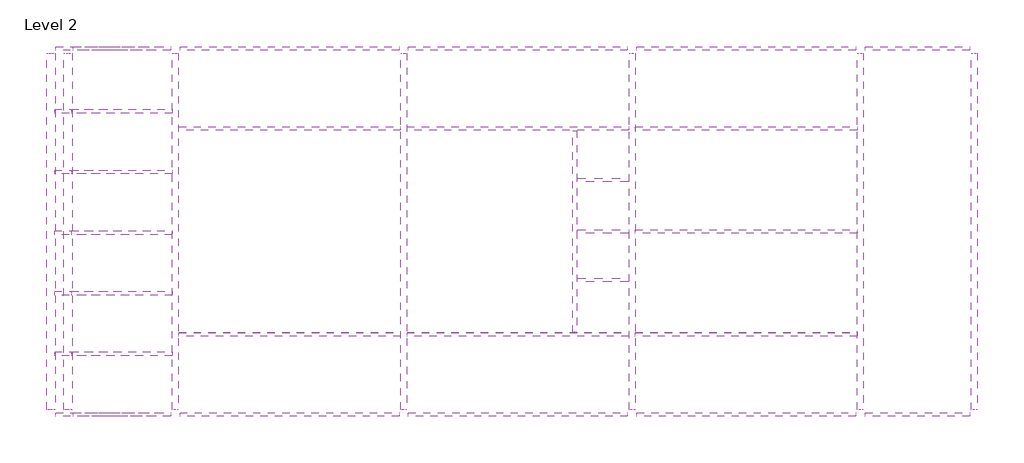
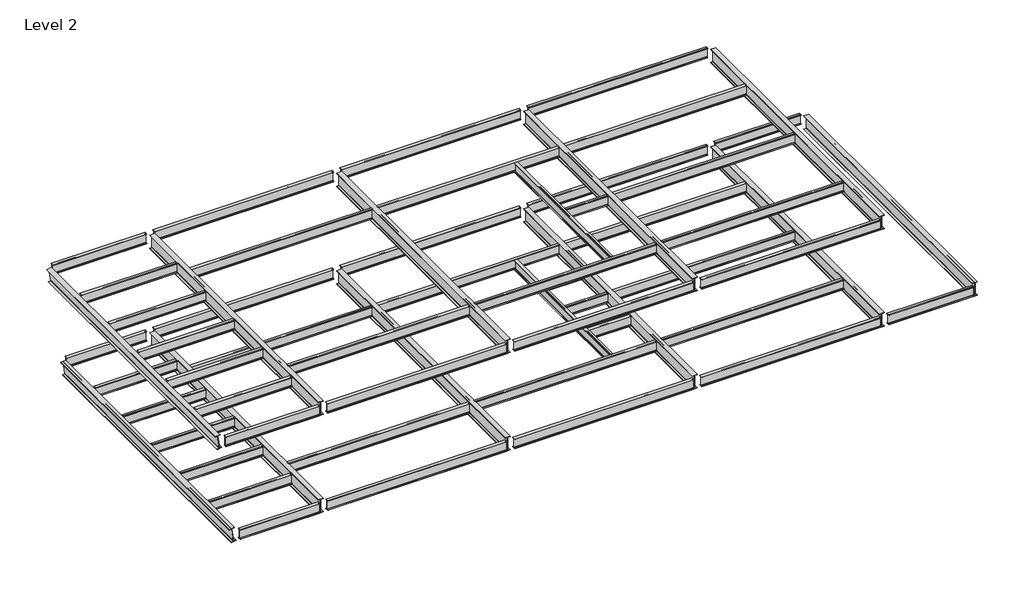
# One storey: 59 beams.
"""IFC4 building model written with IfcOpenShell, lengths in millimetres."""

from ifc_helpers import new_model, si_unit, origin, place, context, project, spatial, transform, mapped, element, save
from components import w_shapes_w21x57_76d5891c, w_shapes_w21x57_2c3ae1b6, w_shapes_w21x57_840b16e6, w_shapes_w21x57_eb867012, w_shapes_w21x57_61476ac7, w_shapes_w21x57_55c37454, w_shapes_w21x57_7ce624f6, w_shapes_w21x57_5e1e39fb, w_shapes_w21x57_8b329244, w_shapes_w21x57_205b0bd9, w_shapes_w21x57_e7449647, w_shapes_w21x57_ac06ad1a, w_shapes_w21x57_a1cec43f, w_shapes_w30x124_36e47cc1, w_shapes_w30x124_813c827b

model = new_model("IFC4")

# Units and contexts
model_context = context("Model", 3, world=origin())
ifc_project = project(units=[si_unit("LENGTHUNIT", "METRE", prefix="MILLI")], contexts=[model_context])

# Site, building, storey
site = spatial("IfcSite", under=ifc_project)
building = spatial("IfcBuilding", under=site)
storey = spatial("IfcBuildingStorey", under=building, Name="Level 2", Elevation=3000.0)

# Beams
placement = place(None, origin())
w_shapes_w21x57_shape = w_shapes_w21x57_76d5891c(model_context)
element("IfcBeam", 1, ObjectType="W Shapes : W21X57", at=placement, inside=storey, context=model_context, shape_type="MappedRepresentation", body=[
    mapped(w_shapes_w21x57_shape, transform((4197.5, -9335.0, 5232.03), x_axis=(1.0, 0.0, 0.0), y_axis=(0.0, 1.0, 0.0), z_axis=(0.0, 0.0, 1.0))),
])
element("IfcBeam", 2, ObjectType="W Shapes : W21X57", at=placement, inside=storey, context=model_context, shape_type="MappedRepresentation", body=[
    mapped(w_shapes_w21x57_shape, transform((4197.5, -6685.0, 5232.03), x_axis=(1.0, 0.0, 0.0), y_axis=(0.0, 1.0, 0.0), z_axis=(0.0, 0.0, 1.0))),
])
element("IfcBeam", 3, ObjectType="W Shapes : W21X57", at=placement, inside=storey, context=model_context, shape_type="MappedRepresentation", body=[
    mapped(w_shapes_w21x57_shape, transform((4197.5, -4035.0, 5232.03), x_axis=(1.0, 0.0, 0.0), y_axis=(0.0, 1.0, 0.0), z_axis=(0.0, 0.0, 1.0))),
])
element("IfcBeam", 4, ObjectType="W Shapes : W21X57", at=placement, inside=storey, context=model_context, shape_type="MappedRepresentation", body=[
    mapped(w_shapes_w21x57_shape, transform((4197.5, -1385.0, 5232.03), x_axis=(1.0, 0.0, 0.0), y_axis=(0.0, 1.0, 0.0), z_axis=(0.0, 0.0, 1.0))),
])
element("IfcBeam", 5, ObjectType="W Shapes : W21X57", at=placement, inside=storey, context=model_context, shape_type="MappedRepresentation", body=[
    mapped(w_shapes_w21x57_shape, transform((4197.5, -11985.0, 5232.03), x_axis=(1.0, 0.0, 0.0), y_axis=(0.0, 1.0, 0.0), z_axis=(0.0, 0.0, 1.0))),
])
w_shapes_w21x57_2_shape = w_shapes_w21x57_2c3ae1b6(model_context)
element("IfcBeam", 6, ObjectType="W Shapes : W21X57", at=placement, inside=storey, context=model_context, shape_type="MappedRepresentation", body=[
    mapped(w_shapes_w21x57_2_shape, transform((24099.4, -6572.5, 10732.03), x_axis=(0.0, -1.0, 0.0), y_axis=(1.0, 0.0, 0.0), z_axis=(0.0, 0.0, 1.0))),
])
element("IfcBeam", 7, ObjectType="W Shapes : W21X57", at=placement, inside=storey, context=model_context, shape_type="MappedRepresentation", body=[
    mapped(w_shapes_w21x57_2_shape, transform((24099.4, -6572.5, 5232.03), x_axis=(0.0, -1.0, 0.0), y_axis=(1.0, 0.0, 0.0), z_axis=(0.0, 0.0, 1.0))),
])
w_shapes_w21x57_3_shape = w_shapes_w21x57_840b16e6(model_context)
element("IfcBeam", 8, ObjectType="W Shapes : W21X57", at=placement, inside=storey, context=model_context, shape_type="MappedRepresentation", body=[
    mapped(w_shapes_w21x57_3_shape, transform((25349.4, -6635.0, 10732.03), x_axis=(1.0, 0.0, 0.0), y_axis=(0.0, 1.0, 0.0), z_axis=(0.0, 0.0, 1.0))),
])
element("IfcBeam", 9, ObjectType="W Shapes : W21X57", at=placement, inside=storey, context=model_context, shape_type="MappedRepresentation", body=[
    mapped(w_shapes_w21x57_3_shape, transform((25349.4, -6635.0, 5232.03), x_axis=(1.0, 0.0, 0.0), y_axis=(0.0, 1.0, 0.0), z_axis=(0.0, 0.0, 1.0))),
])
w_shapes_w21x57_4_shape = w_shapes_w21x57_eb867012(model_context)
element("IfcBeam", 10, ObjectType="W Shapes : W21X57", at=placement, inside=storey, context=model_context, shape_type="MappedRepresentation", body=[
    mapped(w_shapes_w21x57_4_shape, transform((25286.9, -4385.0, 5232.03), x_axis=(1.0, 0.0, 0.0), y_axis=(0.0, 1.0, 0.0), z_axis=(0.0, 0.0, 1.0))),
])
element("IfcBeam", 11, ObjectType="W Shapes : W21X57", at=placement, inside=storey, context=model_context, shape_type="MappedRepresentation", body=[
    mapped(w_shapes_w21x57_4_shape, transform((25286.9, -8760.0, 5232.03), x_axis=(1.0, 0.0, 0.0), y_axis=(0.0, 1.0, 0.0), z_axis=(0.0, 0.0, 1.0))),
])
w_shapes_w21x57_5_shape = w_shapes_w21x57_61476ac7(model_context)
element("IfcBeam", 12, ObjectType="W Shapes : W21X57", at=placement, inside=storey, context=model_context, shape_type="MappedRepresentation", body=[
    mapped(w_shapes_w21x57_5_shape, transform((3822.5, -11985.0, 10732.03), x_axis=(1.0, 0.0, 0.0), y_axis=(0.0, 1.0, 0.0), z_axis=(0.0, 0.0, 1.0))),
])
element("IfcBeam", 13, ObjectType="W Shapes : W21X57", at=placement, inside=storey, context=model_context, shape_type="MappedRepresentation", body=[
    mapped(w_shapes_w21x57_5_shape, transform((3822.5, -9335.0, 10732.03), x_axis=(1.0, 0.0, 0.0), y_axis=(0.0, 1.0, 0.0), z_axis=(0.0, 0.0, 1.0))),
])
element("IfcBeam", 14, ObjectType="W Shapes : W21X57", at=placement, inside=storey, context=model_context, shape_type="MappedRepresentation", body=[
    mapped(w_shapes_w21x57_5_shape, transform((3822.5, -6685.0, 10732.03), x_axis=(1.0, 0.0, 0.0), y_axis=(0.0, 1.0, 0.0), z_axis=(0.0, 0.0, 1.0))),
])
element("IfcBeam", 15, ObjectType="W Shapes : W21X57", at=placement, inside=storey, context=model_context, shape_type="MappedRepresentation", body=[
    mapped(w_shapes_w21x57_5_shape, transform((3822.5, -4035.0, 10732.03), x_axis=(1.0, 0.0, 0.0), y_axis=(0.0, 1.0, 0.0), z_axis=(0.0, 0.0, 1.0))),
])
element("IfcBeam", 16, ObjectType="W Shapes : W21X57", at=placement, inside=storey, context=model_context, shape_type="MappedRepresentation", body=[
    mapped(w_shapes_w21x57_5_shape, transform((3822.5, -1385.0, 10732.03), x_axis=(1.0, 0.0, 0.0), y_axis=(0.0, 1.0, 0.0), z_axis=(0.0, 0.0, 1.0))),
])
w_shapes_w21x57_6_shape = w_shapes_w21x57_55c37454(model_context)
element("IfcBeam", 17, ObjectType="W Shapes : W21X57", at=placement, inside=storey, context=model_context, shape_type="MappedRepresentation", body=[
    mapped(w_shapes_w21x57_6_shape, transform((31590.5, -11135.0, 5232.03), x_axis=(-1.0, 0.0, 0.0), y_axis=(0.0, -1.0, 0.0), z_axis=(0.0, 0.0, 1.0))),
])
element("IfcBeam", 18, ObjectType="W Shapes : W21X57", at=placement, inside=storey, context=model_context, shape_type="MappedRepresentation", body=[
    mapped(w_shapes_w21x57_6_shape, transform((21608.3, -11135.0, 5232.03), x_axis=(-1.0, 0.0, 0.0), y_axis=(0.0, -1.0, 0.0), z_axis=(0.0, 0.0, 1.0))),
])
element("IfcBeam", 19, ObjectType="W Shapes : W21X57", at=placement, inside=storey, context=model_context, shape_type="MappedRepresentation", body=[
    mapped(w_shapes_w21x57_6_shape, transform((31590.5, -2135.0, 5232.03), x_axis=(-1.0, 0.0, 0.0), y_axis=(0.0, -1.0, 0.0), z_axis=(0.0, 0.0, 1.0))),
])
element("IfcBeam", 20, ObjectType="W Shapes : W21X57", at=placement, inside=storey, context=model_context, shape_type="MappedRepresentation", body=[
    mapped(w_shapes_w21x57_6_shape, transform((21608.3, -2135.0, 5232.03), x_axis=(-1.0, 0.0, 0.0), y_axis=(0.0, -1.0, 0.0), z_axis=(0.0, 0.0, 1.0))),
])
element("IfcBeam", 21, ObjectType="W Shapes : W21X57", at=placement, inside=storey, context=model_context, shape_type="MappedRepresentation", body=[
    mapped(w_shapes_w21x57_6_shape, transform((31590.5, -2135.0, 10732.03), x_axis=(-1.0, 0.0, 0.0), y_axis=(0.0, -1.0, 0.0), z_axis=(0.0, 0.0, 1.0))),
])
element("IfcBeam", 22, ObjectType="W Shapes : W21X57", at=placement, inside=storey, context=model_context, shape_type="MappedRepresentation", body=[
    mapped(w_shapes_w21x57_6_shape, transform((21608.3, -2135.0, 10732.03), x_axis=(-1.0, 0.0, 0.0), y_axis=(0.0, -1.0, 0.0), z_axis=(0.0, 0.0, 1.0))),
])
element("IfcBeam", 23, ObjectType="W Shapes : W21X57", at=placement, inside=storey, context=model_context, shape_type="MappedRepresentation", body=[
    mapped(w_shapes_w21x57_6_shape, transform((31590.5, -11135.0, 10732.03), x_axis=(-1.0, 0.0, 0.0), y_axis=(0.0, -1.0, 0.0), z_axis=(0.0, 0.0, 1.0))),
])
element("IfcBeam", 24, ObjectType="W Shapes : W21X57", at=placement, inside=storey, context=model_context, shape_type="MappedRepresentation", body=[
    mapped(w_shapes_w21x57_6_shape, transform((21608.3, -11135.0, 10732.03), x_axis=(-1.0, 0.0, 0.0), y_axis=(0.0, -1.0, 0.0), z_axis=(0.0, 0.0, 1.0))),
])
w_shapes_w21x57_7_shape = w_shapes_w21x57_7ce624f6(model_context)
element("IfcBeam", 25, ObjectType="W Shapes : W21X57", at=placement, inside=storey, context=model_context, shape_type="MappedRepresentation", body=[
    mapped(w_shapes_w21x57_7_shape, transform((11688.6, -11135.0, 5232.03), x_axis=(-1.0, 0.0, 0.0), y_axis=(0.0, -1.0, 0.0), z_axis=(0.0, 0.0, 1.0))),
])
element("IfcBeam", 26, ObjectType="W Shapes : W21X57", at=placement, inside=storey, context=model_context, shape_type="MappedRepresentation", body=[
    mapped(w_shapes_w21x57_7_shape, transform((11688.6, -2135.0, 5232.03), x_axis=(-1.0, 0.0, 0.0), y_axis=(0.0, -1.0, 0.0), z_axis=(0.0, 0.0, 1.0))),
])
element("IfcBeam", 27, ObjectType="W Shapes : W21X57", at=placement, inside=storey, context=model_context, shape_type="MappedRepresentation", body=[
    mapped(w_shapes_w21x57_7_shape, transform((11688.6, -2135.0, 10732.03), x_axis=(-1.0, 0.0, 0.0), y_axis=(0.0, -1.0, 0.0), z_axis=(0.0, 0.0, 1.0))),
])
element("IfcBeam", 28, ObjectType="W Shapes : W21X57", at=placement, inside=storey, context=model_context, shape_type="MappedRepresentation", body=[
    mapped(w_shapes_w21x57_7_shape, transform((11688.6, -11135.0, 10732.03), x_axis=(-1.0, 0.0, 0.0), y_axis=(0.0, -1.0, 0.0), z_axis=(0.0, 0.0, 1.0))),
])
element("IfcBeam", 29, ObjectType="W Shapes : W21X57", at=placement, inside=storey, context=model_context, shape_type="MappedRepresentation", body=[
    mapped(w_shapes_w21x57_7_shape, transform((31528.0, -6635.0, 10732.03), x_axis=(1.0, 0.0, 0.0), y_axis=(0.0, 1.0, 0.0), z_axis=(0.0, 0.0, 1.0))),
])
element("IfcBeam", 30, ObjectType="W Shapes : W21X57", at=placement, inside=storey, context=model_context, shape_type="MappedRepresentation", body=[
    mapped(w_shapes_w21x57_7_shape, transform((31528.0, -6635.0, 5232.03), x_axis=(1.0, 0.0, 0.0), y_axis=(0.0, 1.0, 0.0), z_axis=(0.0, 0.0, 1.0))),
])
w_shapes_w21x57_8_shape = w_shapes_w21x57_5e1e39fb(model_context)
element("IfcBeam", 31, ObjectType="W Shapes : W21X57", at=placement, inside=storey, context=model_context, shape_type="MappedRepresentation", body=[
    mapped(w_shapes_w21x57_8_shape, transform((39072.7, -14635.0, 5232.03), x_axis=(-1.0, 0.0, 0.0), y_axis=(0.0, -1.0, 0.0), z_axis=(0.0, 0.0, 1.0))),
])
element("IfcBeam", 32, ObjectType="W Shapes : W21X57", at=placement, inside=storey, context=model_context, shape_type="MappedRepresentation", body=[
    mapped(w_shapes_w21x57_8_shape, transform((39072.7, 1365.0, 5232.03), x_axis=(1.0, 0.0, 0.0), y_axis=(0.0, 1.0, 0.0), z_axis=(0.0, 0.0, 1.0))),
])
w_shapes_w21x57_9_shape = w_shapes_w21x57_8b329244(model_context)
element("IfcBeam", 33, ObjectType="W Shapes : W21X57", at=placement, inside=storey, context=model_context, shape_type="MappedRepresentation", body=[
    mapped(w_shapes_w21x57_9_shape, transform((21608.3, -14635.0, 5232.03), x_axis=(-1.0, 0.0, 0.0), y_axis=(0.0, -1.0, 0.0), z_axis=(0.0, 0.0, 1.0))),
])
element("IfcBeam", 34, ObjectType="W Shapes : W21X57", at=placement, inside=storey, context=model_context, shape_type="MappedRepresentation", body=[
    mapped(w_shapes_w21x57_9_shape, transform((11626.1, -14635.0, 5232.03), x_axis=(-1.0, 0.0, 0.0), y_axis=(0.0, -1.0, 0.0), z_axis=(0.0, 0.0, 1.0))),
])
element("IfcBeam", 35, ObjectType="W Shapes : W21X57", at=placement, inside=storey, context=model_context, shape_type="MappedRepresentation", body=[
    mapped(w_shapes_w21x57_9_shape, transform((11626.1, 1365.0, 5232.03), x_axis=(1.0, 0.0, 0.0), y_axis=(0.0, 1.0, 0.0), z_axis=(0.0, 0.0, 1.0))),
])
element("IfcBeam", 36, ObjectType="W Shapes : W21X57", at=placement, inside=storey, context=model_context, shape_type="MappedRepresentation", body=[
    mapped(w_shapes_w21x57_9_shape, transform((21608.3, 1365.0, 5232.03), x_axis=(1.0, 0.0, 0.0), y_axis=(0.0, 1.0, 0.0), z_axis=(0.0, 0.0, 1.0))),
])
element("IfcBeam", 37, ObjectType="W Shapes : W21X57", at=placement, inside=storey, context=model_context, shape_type="MappedRepresentation", body=[
    mapped(w_shapes_w21x57_9_shape, transform((31590.5, 1365.0, 5232.03), x_axis=(1.0, 0.0, 0.0), y_axis=(0.0, 1.0, 0.0), z_axis=(0.0, 0.0, 1.0))),
])
element("IfcBeam", 38, ObjectType="W Shapes : W21X57", at=placement, inside=storey, context=model_context, shape_type="MappedRepresentation", body=[
    mapped(w_shapes_w21x57_9_shape, transform((31590.5, -14635.0, 10732.03), x_axis=(-1.0, 0.0, 0.0), y_axis=(0.0, -1.0, 0.0), z_axis=(0.0, 0.0, 1.0))),
])
element("IfcBeam", 39, ObjectType="W Shapes : W21X57", at=placement, inside=storey, context=model_context, shape_type="MappedRepresentation", body=[
    mapped(w_shapes_w21x57_9_shape, transform((21608.3, -14635.0, 10732.03), x_axis=(-1.0, 0.0, 0.0), y_axis=(0.0, -1.0, 0.0), z_axis=(0.0, 0.0, 1.0))),
])
element("IfcBeam", 40, ObjectType="W Shapes : W21X57", at=placement, inside=storey, context=model_context, shape_type="MappedRepresentation", body=[
    mapped(w_shapes_w21x57_9_shape, transform((11626.1, -14635.0, 10732.03), x_axis=(-1.0, 0.0, 0.0), y_axis=(0.0, -1.0, 0.0), z_axis=(0.0, 0.0, 1.0))),
])
element("IfcBeam", 41, ObjectType="W Shapes : W21X57", at=placement, inside=storey, context=model_context, shape_type="MappedRepresentation", body=[
    mapped(w_shapes_w21x57_9_shape, transform((11626.1, 1365.0, 10732.03), x_axis=(1.0, 0.0, 0.0), y_axis=(0.0, 1.0, 0.0), z_axis=(0.0, 0.0, 1.0))),
])
element("IfcBeam", 42, ObjectType="W Shapes : W21X57", at=placement, inside=storey, context=model_context, shape_type="MappedRepresentation", body=[
    mapped(w_shapes_w21x57_9_shape, transform((21608.3, 1365.0, 10732.03), x_axis=(1.0, 0.0, 0.0), y_axis=(0.0, 1.0, 0.0), z_axis=(0.0, 0.0, 1.0))),
])
element("IfcBeam", 43, ObjectType="W Shapes : W21X57", at=placement, inside=storey, context=model_context, shape_type="MappedRepresentation", body=[
    mapped(w_shapes_w21x57_9_shape, transform((31590.5, 1365.0, 10732.03), x_axis=(1.0, 0.0, 0.0), y_axis=(0.0, 1.0, 0.0), z_axis=(0.0, 0.0, 1.0))),
])
element("IfcBeam", 44, ObjectType="W Shapes : W21X57", at=placement, inside=storey, context=model_context, shape_type="MappedRepresentation", body=[
    mapped(w_shapes_w21x57_9_shape, transform((31590.5, -14635.0, 5232.03), x_axis=(-1.0, 0.0, 0.0), y_axis=(0.0, -1.0, 0.0), z_axis=(0.0, 0.0, 1.0))),
])
w_shapes_w21x57_10_shape = w_shapes_w21x57_205b0bd9(model_context)
element("IfcBeam", 45, ObjectType="W Shapes : W21X57", at=placement, inside=storey, context=model_context, shape_type="MappedRepresentation", body=[
    mapped(w_shapes_w21x57_10_shape, transform((4260.0, -14635.0, 5232.03), x_axis=(-1.0, 0.0, 0.0), y_axis=(0.0, -1.0, 0.0), z_axis=(0.0, 0.0, 1.0))),
])
w_shapes_w21x57_11_shape = w_shapes_w21x57_e7449647(model_context)
element("IfcBeam", 46, ObjectType="W Shapes : W21X57", at=placement, inside=storey, context=model_context, shape_type="MappedRepresentation", body=[
    mapped(w_shapes_w21x57_11_shape, transform((4260.0, 1365.0, 5232.03), x_axis=(1.0, 0.0, 0.0), y_axis=(0.0, 1.0, 0.0), z_axis=(0.0, 0.0, 1.0))),
])
w_shapes_w21x57_12_shape = w_shapes_w21x57_ac06ad1a(model_context)
element("IfcBeam", 47, ObjectType="W Shapes : W21X57", at=placement, inside=storey, context=model_context, shape_type="MappedRepresentation", body=[
    mapped(w_shapes_w21x57_12_shape, transform((3885.0, -14635.0, 10732.03), x_axis=(-1.0, 0.0, 0.0), y_axis=(0.0, -1.0, 0.0), z_axis=(0.0, 0.0, 1.0))),
])
w_shapes_w21x57_13_shape = w_shapes_w21x57_a1cec43f(model_context)
element("IfcBeam", 48, ObjectType="W Shapes : W21X57", at=placement, inside=storey, context=model_context, shape_type="MappedRepresentation", body=[
    mapped(w_shapes_w21x57_13_shape, transform((3885.0, 1365.0, 10732.03), x_axis=(1.0, 0.0, 0.0), y_axis=(0.0, 1.0, 0.0), z_axis=(0.0, 0.0, 1.0))),
])
w_shapes_w30x124_shape = w_shapes_w30x124_36e47cc1(model_context)
element("IfcBeam", 49, ObjectType="W Shapes : W30X124", at=placement, inside=storey, context=model_context, shape_type="MappedRepresentation", body=[
    mapped(w_shapes_w30x124_shape, transform((16617.2, -6635.0, 5116.46), x_axis=(0.0, 1.0, 0.0), y_axis=(-1.0, 0.0, 0.0), z_axis=(0.0, 0.0, 1.0))),
])
element("IfcBeam", 50, ObjectType="W Shapes : W30X124", at=placement, inside=storey, context=model_context, shape_type="MappedRepresentation", body=[
    mapped(w_shapes_w30x124_shape, transform((26599.4, -6635.0, 5116.46), x_axis=(0.0, 1.0, 0.0), y_axis=(-1.0, 0.0, 0.0), z_axis=(0.0, 0.0, 1.0))),
])
element("IfcBeam", 51, ObjectType="W Shapes : W30X124", at=placement, inside=storey, context=model_context, shape_type="MappedRepresentation", body=[
    mapped(w_shapes_w30x124_shape, transform((36581.6, -6635.0, 10616.46), x_axis=(0.0, -1.0, 0.0), y_axis=(1.0, 0.0, 0.0), z_axis=(0.0, 0.0, 1.0))),
])
element("IfcBeam", 52, ObjectType="W Shapes : W30X124", at=placement, inside=storey, context=model_context, shape_type="MappedRepresentation", body=[
    mapped(w_shapes_w30x124_shape, transform((6635.0, -6635.0, 10616.46), x_axis=(0.0, 1.0, 0.0), y_axis=(-1.0, 0.0, 0.0), z_axis=(0.0, 0.0, 1.0))),
])
element("IfcBeam", 53, ObjectType="W Shapes : W30X124", at=placement, inside=storey, context=model_context, shape_type="MappedRepresentation", body=[
    mapped(w_shapes_w30x124_shape, transform((16617.2, -6635.0, 10616.46), x_axis=(0.0, 1.0, 0.0), y_axis=(-1.0, 0.0, 0.0), z_axis=(0.0, 0.0, 1.0))),
])
element("IfcBeam", 54, ObjectType="W Shapes : W30X124", at=placement, inside=storey, context=model_context, shape_type="MappedRepresentation", body=[
    mapped(w_shapes_w30x124_shape, transform((26599.4, -6635.0, 10616.46), x_axis=(0.0, 1.0, 0.0), y_axis=(-1.0, 0.0, 0.0), z_axis=(0.0, 0.0, 1.0))),
])
element("IfcBeam", 55, ObjectType="W Shapes : W30X124", at=placement, inside=storey, context=model_context, shape_type="MappedRepresentation", body=[
    mapped(w_shapes_w30x124_shape, transform((41563.8, -6635.0, 5116.46), x_axis=(0.0, -1.0, 0.0), y_axis=(1.0, 0.0, 0.0), z_axis=(0.0, 0.0, 1.0))),
])
element("IfcBeam", 56, ObjectType="W Shapes : W30X124", at=placement, inside=storey, context=model_context, shape_type="MappedRepresentation", body=[
    mapped(w_shapes_w30x124_shape, transform((36581.6, -6635.0, 5116.46), x_axis=(0.0, -1.0, 0.0), y_axis=(1.0, 0.0, 0.0), z_axis=(0.0, 0.0, 1.0))),
])
element("IfcBeam", 57, ObjectType="W Shapes : W30X124", at=placement, inside=storey, context=model_context, shape_type="MappedRepresentation", body=[
    mapped(w_shapes_w30x124_shape, transform((6635.0, -6635.0, 5116.46), x_axis=(0.0, 1.0, 0.0), y_axis=(-1.0, 0.0, 0.0), z_axis=(0.0, 0.0, 1.0))),
])
w_shapes_w30x124_2_shape = w_shapes_w30x124_813c827b(model_context)
element("IfcBeam", 58, ObjectType="W Shapes : W30X124", at=placement, inside=storey, context=model_context, shape_type="MappedRepresentation", body=[
    mapped(w_shapes_w30x124_2_shape, transform((1188.3684469, -6635.0, 10620.191179), x_axis=(0.0, 1.0000000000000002, 0.0), y_axis=(-0.9902717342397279, 0.0, -0.13914701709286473), z_axis=(-0.13914701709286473, 0.0, 0.9902717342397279))),
])
element("IfcBeam", 59, ObjectType="W Shapes : W30X124", at=placement, inside=storey, context=model_context, shape_type="MappedRepresentation", body=[
    mapped(w_shapes_w30x124_2_shape, transform((1938.3684469, -6635.0, 5120.191179), x_axis=(0.0, 1.0000000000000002, 0.0), y_axis=(-0.9902717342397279, 0.0, -0.13914701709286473), z_axis=(-0.13914701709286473, 0.0, 0.9902717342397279))),
])

save(model, "model.ifc")
